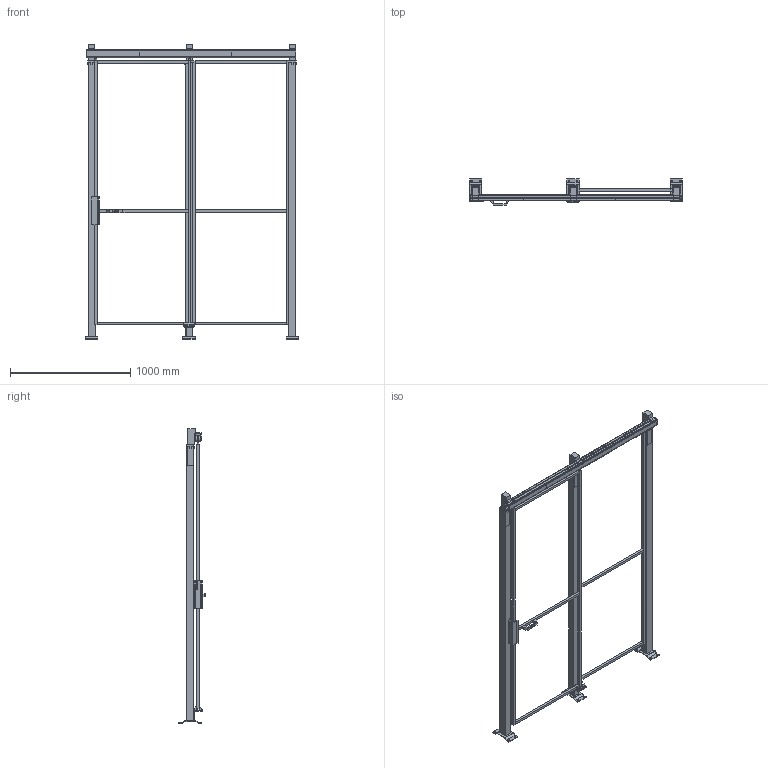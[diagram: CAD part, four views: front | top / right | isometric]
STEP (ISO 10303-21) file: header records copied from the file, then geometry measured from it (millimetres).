
FILE_DESCRIPTION(/* description */ (''),/* implementation_level */ '2;1');
FILE_NAME(/* name */ 'C:\SafeGuarding\ELABORATI\VZOR§POSUVNE_1950x2320_2025-02-13-12-24-48.stp',/* time_stamp */ '2025-02-13T12:24:51+01:00',/* author */ ('admin'),/* organization */ (''),/* preprocessor_version */ 'ST-DEVELOPER v18.1',/* originating_system */ 'AutoCAD Mechanical',/* authorisation */ '');
FILE_SCHEMA (('AUTOMOTIVE_DESIGN { 1 0 10303 214 3 1 1 }','TECHNICAL_DATA_PACKAGING'));
Length unit declared in the file: millimetre
Products named in the file (4): Product; R_VFPA.REPE20.08002200; DATI_PORTA; P_VFMA.ME60SDU.2320
Assembly tree (6 placements, depth 2):
  Product
    P_VFMA.ME60SDU.2320  x3
    R_VFPA.REPE20.08002200  x2
    DATI_PORTA
Bounding box: 1770 x 219.95 x 2454 mm (x, y, z)
Volume: 36770416.3 mm3; surface area: 4428868.4 mm2
Topology: 35 solids, 46 shells, 482 faces, 1540 edges, 1464 vertices
Faces by surface type: plane 442, cylinder 38, sphere 2
Full cylindrical faces by diameter (mm): 11 x12, 12 x2, 15 x4, 40 x4
Entity records: 11988 total; most frequent: CARTESIAN_POINT 2532, DIRECTION 1812, ORIENTED_EDGE 1758, EDGE_CURVE 928, LINE 864, VECTOR 864, VERTEX_POINT 660, AXIS2_PLACEMENT_3D 474
